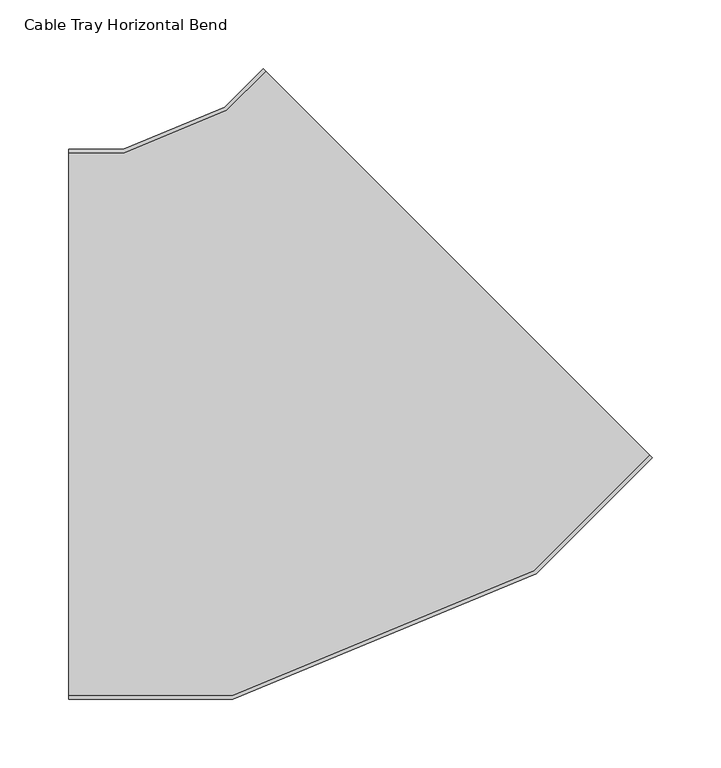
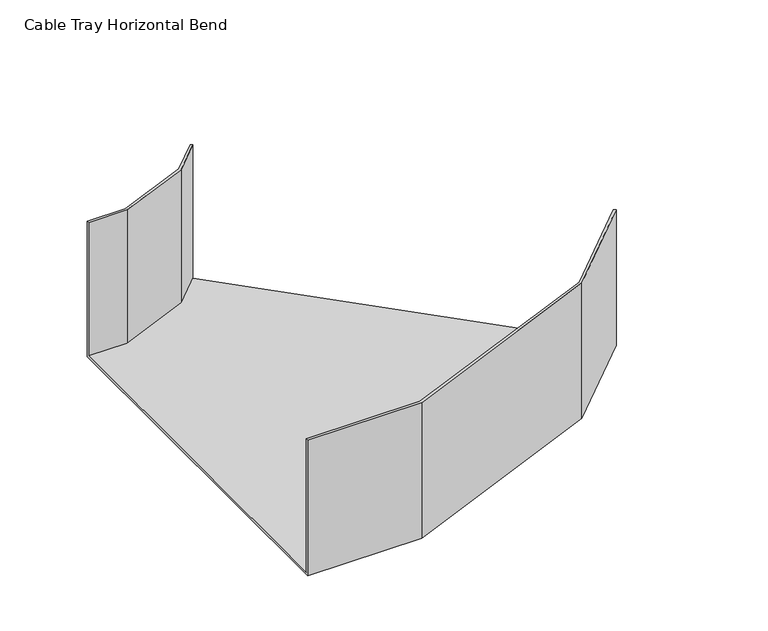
"""IFC4 building model written with IfcOpenShell, lengths in millimetres: cable carrier fitting geometry, Cable Tray Horizontal Bend : ELEC_ELV_TKG_N2402."""

from ifc_helpers import new_model, si_unit, origin, place, context, project, spatial, faceted_brep, source, transform, mapped, element, save


def cable_tray_horizontal_bend_460281a5(model_context):
    return source(origin(), model_context, "Body", "Brep", [
        faceted_brep([(-165.685425, -200.0, -75.0), (-165.685425, -200.0, 75.0), (-165.685425, -197.46, 75.0), (-165.685425, -197.46, -72.46), (-165.685425, 197.46, -72.46), (-165.685425, 197.46, 75.0), (-165.685425, 200.0, 75.0), (-165.685425, 200.0, -75.0), (258.5786438, -24.2640687, -75.0), (-24.2640687, 258.5786438, -75.0), (-24.2640687, 258.5786438, 75.0), (-22.4680175, 256.7825925, 75.0), (-22.4680175, 256.7825925, -72.46), (256.7825925, -22.4680175, -72.46), (256.7825925, -22.4680175, 75.0), (258.5786438, -24.2640687, 75.0), (-46.3380045, -200.0, -75.0), (-46.3380045, -200.0, 75.0), (174.1872735, -108.655439, 75.0), (172.748479, -106.502131, 75.0), (-46.8432419, -197.46, 75.0), (-46.8432419, -197.46, -72.46), (172.748479, -106.502131, -72.46), (-50.9557311, 228.294879, -72.46), (-125.3977141, 197.46, -72.46), (-125.3977141, 197.46, 75.0), (-50.9557311, 228.294879, 75.0), (-52.3945255, 230.448187, 75.0), (-125.9029515, 200.0, 75.0), (-125.9029515, 200.0, -75.0), (-52.3945255, 230.448187, -75.0), (174.1872735, -108.655439, -75.0)], [[[0, 1, 2, 3, 4, 5, 6, 7]], [[8, 9, 10, 11, 12, 13, 14, 15]], [[1, 0, 16, 17]], [[2, 1, 17, 18, 15, 14, 19, 20]], [[3, 2, 20, 21]], [[4, 3, 21, 22, 13, 12, 23, 24]], [[5, 4, 24, 25]], [[6, 5, 25, 26, 11, 10, 27, 28]], [[7, 6, 28, 29]], [[0, 7, 29, 30, 9, 8, 31, 16]], [[17, 16, 31, 18]], [[21, 20, 19, 22]], [[25, 24, 23, 26]], [[29, 28, 27, 30]], [[18, 31, 8, 15]], [[22, 19, 14, 13]], [[26, 23, 12, 11]], [[30, 27, 10, 9]]]),
    ])


if __name__ == "__main__":
    model = new_model("IFC4")
    model_context = context("Model", 3, world=origin())
    ifc_project = project(units=[si_unit("LENGTHUNIT", "METRE", prefix="MILLI")], contexts=[model_context])
    site = spatial("IfcSite", under=ifc_project)
    building = spatial("IfcBuilding", under=site)
    placement = place(None, origin())
    cable_tray_horizontal_bend_shape = cable_tray_horizontal_bend_460281a5(model_context)
    element("IfcCableCarrierFitting", 1, ObjectType="Cable Tray Horizontal Bend : ELEC_ELV_TKG_N2402", at=placement, inside=building, context=model_context, shape_type="MappedRepresentation", body=[
        mapped(cable_tray_horizontal_bend_shape, transform((0.0, 0.0, 0.0), x_axis=(1.0, 0.0, 0.0), y_axis=(0.0, 1.0, 0.0), z_axis=(0.0, 0.0, 1.0))),
    ])
    save(model, "model.ifc")
